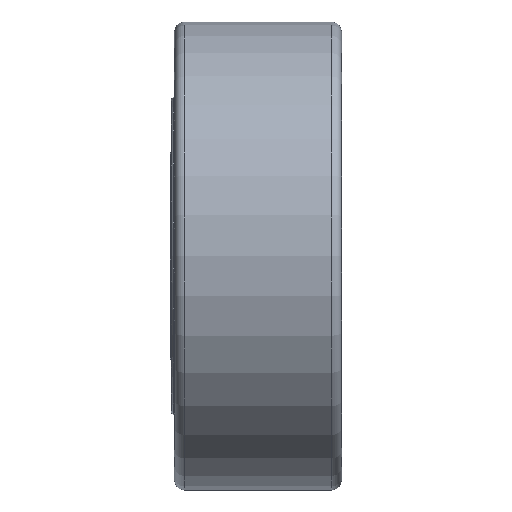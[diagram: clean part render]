
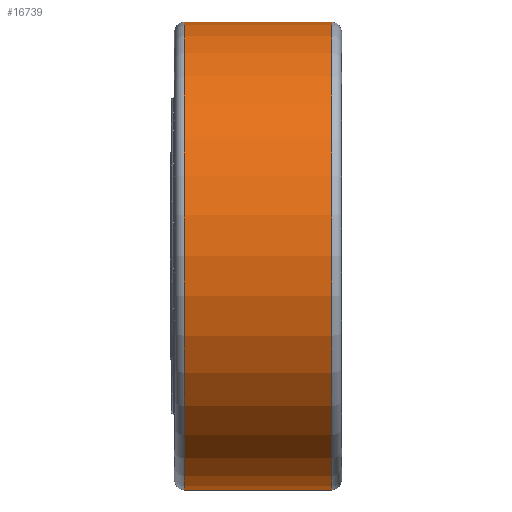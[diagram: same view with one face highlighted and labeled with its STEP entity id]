
A CAD part, top view. The second image highlights one B-rep face of the part: STEP entity #16739.
In plain terms, the highlighted cylindrical face has radius 70 mm (diameter 140 mm), a partial arc.
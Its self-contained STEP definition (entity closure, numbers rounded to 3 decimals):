
#16467=CARTESIAN_POINT('',(-47.,0.,0.));
#16468=DIRECTION('',(1.,0.,0.));
#16469=DIRECTION('',(0.,1.,0.));
#16470=AXIS2_PLACEMENT_3D('',#16467,#16468,#16469);
#16483=DIRECTION('',(-1.,0.,0.));
#16484=VECTOR('',#16483,44.);
#16485=CARTESIAN_POINT('',(-3.,70.,0.));
#16486=LINE('',#16485,#16484);
#16490=CARTESIAN_POINT('',(-3.,0.,0.));
#16491=DIRECTION('',(1.,0.,0.));
#16492=DIRECTION('',(0.,1.,0.));
#16493=AXIS2_PLACEMENT_3D('',#16490,#16491,#16492);
#16498=DIRECTION('',(-1.,0.,0.));
#16499=VECTOR('',#16498,44.);
#16500=CARTESIAN_POINT('',(-3.,-70.,0.));
#16501=LINE('',#16500,#16499);
#16591=CARTESIAN_POINT('',(-3.,70.,0.));
#16592=CARTESIAN_POINT('',(-47.,70.,0.));
#16593=VERTEX_POINT('',#16591);
#16594=VERTEX_POINT('',#16592);
#16599=CARTESIAN_POINT('',(-3.,-70.,0.));
#16600=CARTESIAN_POINT('',(-47.,-70.,0.));
#16601=VERTEX_POINT('',#16599);
#16602=VERTEX_POINT('',#16600);
#16725=CARTESIAN_POINT('',(2.5,0.,0.));
#16726=DIRECTION('',(-1.,0.,0.));
#16727=DIRECTION('',(0.,1.,0.));
#16728=AXIS2_PLACEMENT_3D('',#16725,#16726,#16727);
#16729=CYLINDRICAL_SURFACE('',#16728,70.);
#16731=ORIENTED_EDGE('',*,*,#16730,.F.);
#16733=ORIENTED_EDGE('',*,*,#16732,.T.);
#16735=ORIENTED_EDGE('',*,*,#16734,.T.);
#16736=ORIENTED_EDGE('',*,*,#16718,.F.);
#16737=EDGE_LOOP('',(#16731,#16733,#16735,#16736));
#16738=FACE_OUTER_BOUND('',#16737,.F.);
#16471=CIRCLE('',#16470,70.);
#16494=CIRCLE('',#16493,70.);
#16718=EDGE_CURVE('',#16594,#16602,#16471,.T.);
#16730=EDGE_CURVE('',#16593,#16594,#16486,.T.);
#16732=EDGE_CURVE('',#16593,#16601,#16494,.T.);
#16734=EDGE_CURVE('',#16601,#16602,#16501,.T.);
#16739=ADVANCED_FACE('',(#16738),#16729,.T.);
